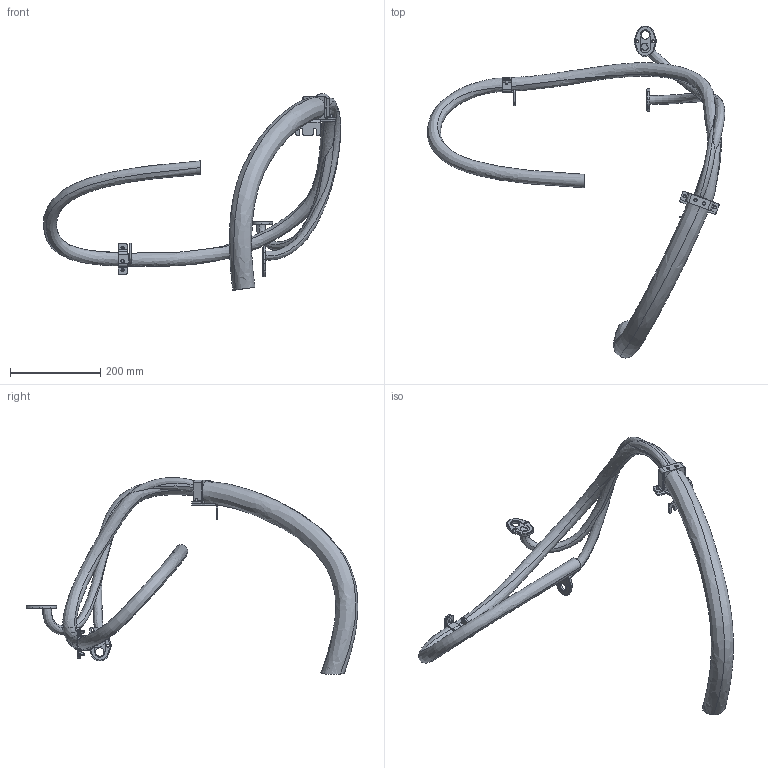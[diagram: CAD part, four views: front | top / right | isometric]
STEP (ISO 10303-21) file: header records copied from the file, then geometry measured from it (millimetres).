
FILE_DESCRIPTION (( 'STEP AP203' ), '1' );
FILE_NAME ('IRB6700_200_280_MH_CABLES_link3_01.STEP', '2013-10-23T12:31:18', ( 'ABB' ), ( 'ABB' ), 'SwSTEP 2.0', 'SolidWorks 2012', '' );
FILE_SCHEMA (( 'CONFIG_CONTROL_DESIGN' ));
Length unit declared in the file: millimetre
Products named in the file (1): IRB6700_200_280_MH_CABLES_link3_01
Bounding box: 660.72 x 737.76 x 437.38 mm (x, y, z)
Volume: 2638100.2 mm3; surface area: 322514.1 mm2
Topology: 1 solids, 1 shells, 385 faces, 1022 edges, 660 vertices
Faces by surface type: plane 180, cylinder 157, bspline 28, cone 20
Entity records: 21055 total; most frequent: CARTESIAN_POINT 11541, ORIENTED_EDGE 2044, DIRECTION 1888, EDGE_CURVE 1022, AXIS2_PLACEMENT_3D 694, VERTEX_POINT 660, VECTOR 500, LINE 500
